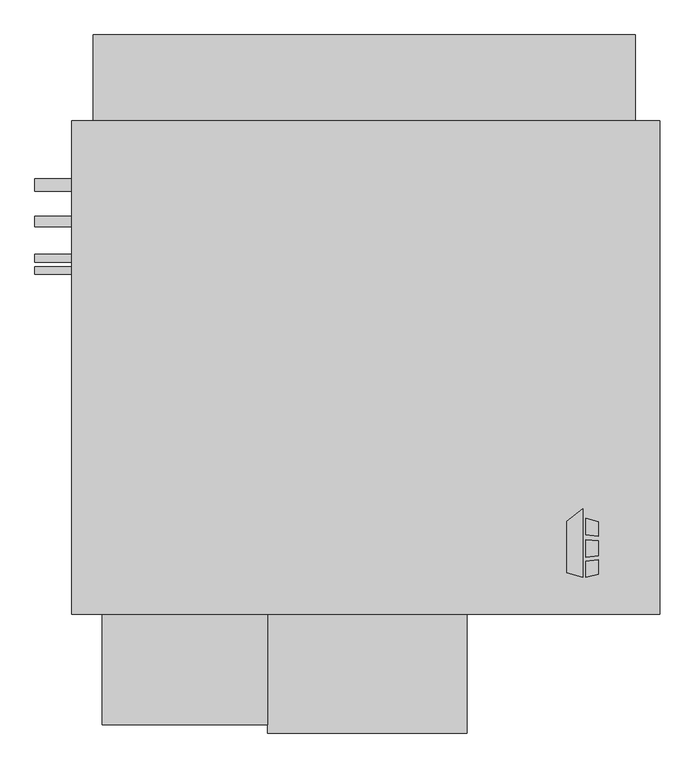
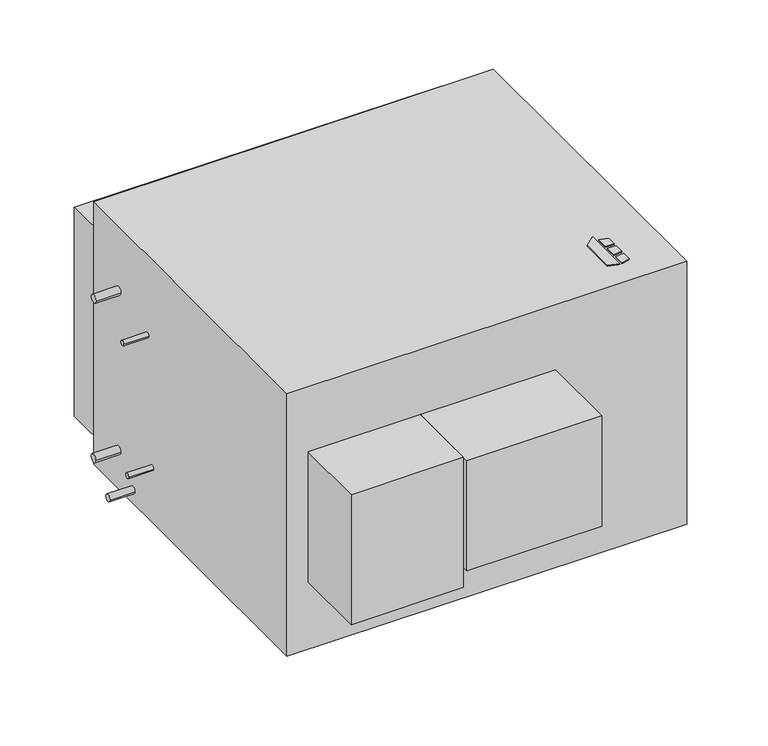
"""IFC4 building model written with IfcOpenShell, lengths in millimetres: proxy geometry, Horizontal_Direct_Drive_Blower_Coil_Unit_-_HDY_-_IEC_-_4-Pipe_LH_2022 : Size 30 - 460v/60Hz/3Ph - 6/2 Coil."""

from ifc_helpers import new_model, si_unit, point, frame, frame_2d, origin, origin_with_axes, place, context, project, spatial, polyline, circle_curve, trimmed, segment, composite_curve, outline, extrude, source, transform, mapped, element, save


def mechanical_equipment_42976cbd(model_context):
    return source(origin(), model_context, "Body", "SweptSolid", [
        extrude(outline(polyline([(-39.9980239, -337.5078476), (-7.4397272, -312.0705184), (-7.4397272, -454.025), (-39.9980239, -443.8054201), (-39.9980239, -337.5078476)])), origin_with_axes(), (0.0, 0.0, 1.0), 3.175),
        extrude(outline(polyline([(-0.6813942, -365.379852), (-0.6813942, -330.8999379), (25.4, -339.0865115), (25.4, -368.5822446), (-0.6813942, -365.379852)])), origin_with_axes(), (0.0, 0.0, 1.0), 3.175),
        extrude(outline(polyline([(25.4, -447.0365115), (-0.6813942, -454.025), (-0.6813942, -420.8036996), (25.4, -417.2618564), (25.4, -447.0365115)])), origin_with_axes(), (0.0, 0.0, 1.0), 3.175),
        extrude(outline(polyline([(25.4, -377.6638277), (25.4, -408.913983), (-0.6813942, -411.655248), (-0.6813942, -375.7975378), (25.4, -377.6638277)])), origin_with_axes(), (0.0, 0.0, 1.0), 3.175),
        extrude(outline(composite_curve([segment(trimmed(circle_curve(frame_2d((358.775, -205.7657415)), 12.7), [point((371.475, -205.7657415))], [point((346.075, -205.7657415))], False, "CARTESIAN"), True, "CONTINUOUS"), segment(trimmed(circle_curve(frame_2d((358.775, -205.7657415)), 12.7), [point((346.075, -205.7657415))], [point((371.475, -205.7657415))], False, "CARTESIAN"), True, "CONTINUOUS")], self_intersect=False)), frame((-1143.0, 0.0, 0.0), z_axis=(1.0, 0.0, 0.0), x_axis=(0.0, 1.0, 0.0)), (0.0, 0.0, 1.0), 76.2),
        extrude(outline(composite_curve([segment(trimmed(circle_curve(frame_2d((359.642288, -720.1157415)), 12.7), [point((372.342288, -720.1157415))], [point((346.942288, -720.1157415))], False, "CARTESIAN"), True, "CONTINUOUS"), segment(trimmed(circle_curve(frame_2d((359.642288, -720.1157415)), 12.7), [point((346.942288, -720.1157415))], [point((372.342288, -720.1157415))], False, "CARTESIAN"), True, "CONTINUOUS")], self_intersect=False)), frame((-1143.0, 0.0, 0.0), z_axis=(1.0, 0.0, 0.0), x_axis=(0.0, 1.0, 0.0)), (0.0, 0.0, 1.0), 76.2),
        extrude(outline(composite_curve([segment(trimmed(circle_curve(frame_2d((283.442288, -802.6657415)), 11.1125), [point((294.554788, -802.6657415))], [point((272.329788, -802.6657415))], False, "CARTESIAN"), True, "CONTINUOUS"), segment(trimmed(circle_curve(frame_2d((283.442288, -802.6657415)), 11.1125), [point((272.329788, -802.6657415))], [point((294.554788, -802.6657415))], False, "CARTESIAN"), True, "CONTINUOUS")], self_intersect=False)), frame((-1143.0, 0.0, 0.0), z_axis=(1.0, 0.0, 0.0), x_axis=(0.0, 1.0, 0.0)), (0.0, 0.0, 1.0), 76.2),
        extrude(outline(composite_curve([segment(trimmed(circle_curve(frame_2d((207.242288, -256.5657415)), 7.9375), [point((215.179788, -256.5657415))], [point((199.304788, -256.5657415))], False, "CARTESIAN"), True, "CONTINUOUS"), segment(trimmed(circle_curve(frame_2d((207.242288, -256.5657415)), 7.9375), [point((199.304788, -256.5657415))], [point((215.179788, -256.5657415))], False, "CARTESIAN"), True, "CONTINUOUS")], self_intersect=False)), frame((-1143.0, 0.0, 0.0), z_axis=(1.0, 0.0, 0.0), x_axis=(0.0, 1.0, 0.0)), (0.0, 0.0, 1.0), 76.2),
        extrude(outline(composite_curve([segment(trimmed(circle_curve(frame_2d((181.842288, -669.5949971)), 7.9375), [point((189.779788, -669.5949971))], [point((173.904788, -669.5949971))], False, "CARTESIAN"), True, "CONTINUOUS"), segment(trimmed(circle_curve(frame_2d((181.842288, -669.5949971)), 7.9375), [point((173.904788, -669.5949971))], [point((189.779788, -669.5949971))], False, "CARTESIAN"), True, "CONTINUOUS")], self_intersect=False)), frame((-1143.0, 0.0, 0.0), z_axis=(1.0, 0.0, 0.0), x_axis=(0.0, 1.0, 0.0)), (0.0, 0.0, 1.0), 76.2),
        extrude(outline(polyline([(152.4, 492.125), (152.4, -530.225), (-1066.8, -530.225), (-1066.8, 492.125), (152.4, 492.125)])), frame((0.0, 0.0, -847.1157415), z_axis=(0.0, 0.0, 1.0), x_axis=(1.0, 0.0, 0.0)), (0.0, 0.0, 1.0), 847.1157415),
        extrude(outline(polyline([(-660.4, -758.825), (-1003.3, -758.825), (-1003.3, -530.225), (-660.4, -530.225), (-660.4, -758.825)])), frame((0.0, 0.0, -628.0407415), z_axis=(0.0, 0.0, 1.0), x_axis=(1.0, 0.0, 0.0)), (0.0, 0.0, 1.0), 419.1),
        extrude(outline(polyline([(-1022.35, 669.925), (101.6, 669.925), (101.6, 492.125), (-1022.35, 492.125), (-1022.35, 669.925)])), frame((0.0, 0.0, -815.3657415), z_axis=(0.0, 0.0, 1.0), x_axis=(1.0, 0.0, 0.0)), (0.0, 0.0, 1.0), 673.1),
        extrude(outline(polyline([(-247.65, -776.2875), (-660.4, -776.2875), (-660.4, -530.225), (-247.65, -530.225), (-247.65, -776.2875)])), frame((0.0, 0.0, -564.5407415), z_axis=(0.0, 0.0, 1.0), x_axis=(1.0, 0.0, 0.0)), (0.0, 0.0, 1.0), 355.6),
    ])


if __name__ == "__main__":
    model = new_model("IFC4")
    model_context = context("Model", 3, world=origin())
    ifc_project = project(units=[si_unit("LENGTHUNIT", "METRE", prefix="MILLI")], contexts=[model_context])
    site = spatial("IfcSite", under=ifc_project)
    building = spatial("IfcBuilding", under=site)
    placement = place(None, origin())
    mechanical_equipment_shape = mechanical_equipment_42976cbd(model_context)
    element("IfcBuildingElementProxy", 1, Name="Horizontal_Direct_Drive_Blower_Coil_Unit_-_HDY_-_IEC_-_4-Pipe_LH_2022 : Size 30 - 460v/60Hz/3Ph - 6/2 Coil", ObjectType="Horizontal_Direct_Drive_Blower_Coil_Unit_-_HDY_-_IEC_-_4-Pipe_LH_2022 : Size 30 - 460v/60Hz/3Ph - 6/2 Coil", at=placement, inside=building, context=model_context, shape_type="MappedRepresentation", body=[
        mapped(mechanical_equipment_shape, transform((0.0, 0.0, 0.0), x_axis=(1.0, 0.0, 0.0), y_axis=(0.0, 1.0, 0.0), z_axis=(0.0, 0.0, 1.0))),
    ])
    save(model, "model.ifc")
